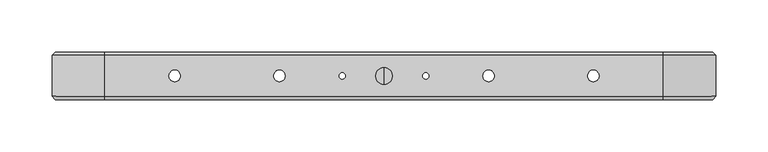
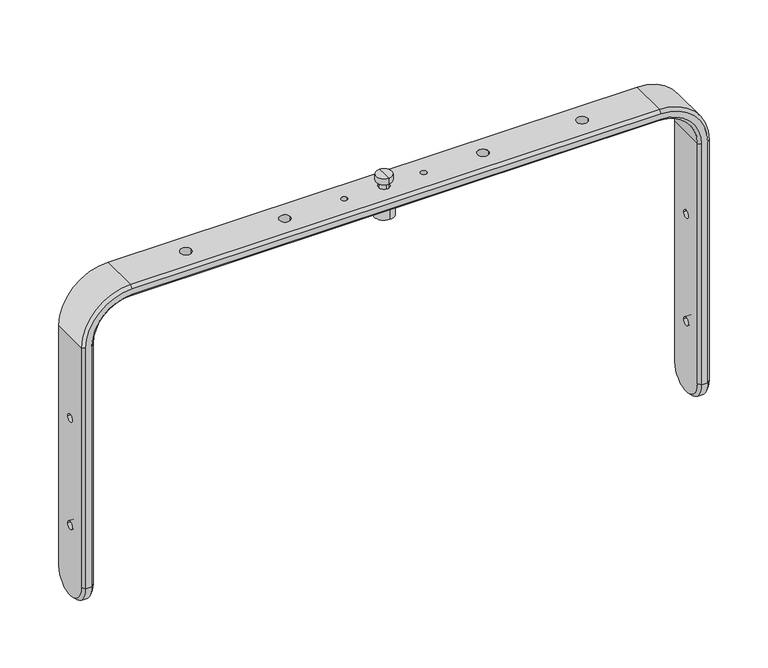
"""IFC4 building model written with IfcOpenShell, lengths in millimetres: proxy geometry, ePS12-WM380-HBRK600-WHM : ePS12-WM380-HBRK600-WHM."""

from ifc_helpers import new_model, si_unit, frame, origin, place, context, project, spatial, polyline, circle_curve, source, transform, mapped, element, save
from ifc_brep_helpers import plane_surface, cylinder_surface, revolved_surface, advanced_brep


def generic_models_f4ac07a8(model_context):
    return source(origin(), model_context, "Body", "AdvancedBrep", [
        advanced_brep(
        [(317.0, -359.9281655, -306.5012591), (317.0, -359.9281655, -50.0), (317.0, -399.0718345, -50.0), (317.0, -399.0718345, -306.5012591), (317.0, -375.5, -137.0012591), (317.0, -383.5, -137.0012591), (317.0, -375.5, -251.5012591), (317.0, -383.5, -251.5012591), (314.0, -402.0718345, -50.0), (314.0, -402.0718345, -306.5012591), (267.0, -402.0718345, -3.0), (-267.0, -402.0718345, -3.0), (-314.0, -402.0718345, -50.0), (-314.0, -402.0718345, -306.5012591), (-308.0, -402.0718345, -306.5012591), (-308.0, -402.0718345, -50.0), (-267.0, -402.0718345, -9.0), (267.0, -402.0718345, -9.0), (308.0, -402.0718345, -50.0), (308.0, -402.0718345, -306.5012591), (305.0, -399.0718345, -50.0), (305.0, -399.0718345, -306.5012591), (305.0, -359.9281655, -50.0), (305.0, -359.9281655, -306.5012591), (305.0, -383.5, -137.0012591), (305.0, -375.5, -137.0012591), (305.0, -383.5, -251.5012591), (305.0, -375.5, -251.5012591), (267.0, -359.9281655, 0.0), (267.0, -399.0718345, 0.0), (267.0, -399.0718345, -12.0), (267.0, -359.9281655, -12.0), (-267.0, -359.9281655, 0.0), (-267.0, -399.0718345, 0.0), (5.5, -379.5, 0.0), (-5.5, -379.5, 0.0), (-194.5, -379.5, 0.0), (-205.5, -379.5, 0.0), (-37.0, -379.5, 0.0), (-43.0, -379.5, 0.0), (-94.5, -379.5, 0.0), (-105.5, -379.5, 0.0), (194.5, -379.5, 0.0), (205.5, -379.5, 0.0), (37.0, -379.5, 0.0), (43.0, -379.5, 0.0), (94.5, -379.5, 0.0), (105.5, -379.5, 0.0), (-267.0, -399.0718345, -12.0), (-267.0, -359.9281655, -12.0), (-5.5, -379.5, -12.0), (5.5, -379.5, -12.0), (-205.5, -379.5, -12.0), (-194.5, -379.5, -12.0), (-43.0, -379.5, -12.0), (-37.0, -379.5, -12.0), (-105.5, -379.5, -12.0), (-94.5, -379.5, -12.0), (205.5, -379.5, -12.0), (194.5, -379.5, -12.0), (43.0, -379.5, -12.0), (37.0, -379.5, -12.0), (105.5, -379.5, -12.0), (94.5, -379.5, -12.0), (-317.0, -359.9281655, -50.0), (-317.0, -399.0718345, -50.0), (-305.0, -399.0718345, -50.0), (-305.0, -359.9281655, -50.0), (-317.0, -359.9281655, -306.5012591), (-317.0, -399.0718345, -306.5012591), (-317.0, -383.5, -137.0012591), (-317.0, -375.5, -137.0012591), (-317.0, -383.5, -251.5012591), (-317.0, -375.5, -251.5012591), (-305.0, -399.0718345, -306.5012591), (-305.0, -359.9281655, -306.5012591), (-305.0, -375.5, -137.0012591), (-305.0, -383.5, -137.0012591), (-305.0, -375.5, -251.5012591), (-305.0, -383.5, -251.5012591), (308.0, -356.9281655, -50.0), (308.0, -356.9281655, -306.5012591), (267.0, -356.9281655, -9.0), (-267.0, -356.9281655, -9.0), (-308.0, -356.9281655, -50.0), (-308.0, -356.9281655, -306.5012591), (-314.0, -356.9281655, -306.5012591), (-314.0, -356.9281655, -50.0), (-267.0, -356.9281655, -3.0), (267.0, -356.9281655, -3.0), (314.0, -356.9281655, -50.0), (314.0, -356.9281655, -306.5012591)],
        [
            (0, 1),
            (1, 2),
            (2, 3),
            (3, 0, circle_curve(frame((317.0, -379.5, -306.5012591), z_axis=(1.0, 0.0, 0.0), x_axis=(0.0, -1.0, 0.0)), 19.5718345)),
            (4, 5, circle_curve(frame((317.0, -379.5, -137.0012591), z_axis=(-1.0, 0.0, 0.0), x_axis=(0.0, 1.0, 0.0)), 4.0)),
            (5, 4, circle_curve(frame((317.0, -379.5, -137.0012591), z_axis=(-1.0, 0.0, 0.0), x_axis=(0.0, 1.0, 0.0)), 4.0)),
            (6, 7, circle_curve(frame((317.0, -379.5, -251.5012591), z_axis=(-1.0, 0.0, 0.0), x_axis=(0.0, 1.0, 0.0)), 4.0)),
            (7, 6, circle_curve(frame((317.0, -379.5, -251.5012591), z_axis=(-1.0, 0.0, 0.0), x_axis=(0.0, 1.0, 0.0)), 4.0)),
            (2, 8),
            (8, 9),
            (9, 3),
            (8, 10, circle_curve(frame((267.0, -402.0718345, -50.0), z_axis=(0.0, -1.0, 0.0), x_axis=(1.0, 0.0, 0.0)), 47.0)),
            (10, 11),
            (11, 12, circle_curve(frame((-267.0, -402.0718345, -50.0), z_axis=(0.0, -1.0, 0.0), x_axis=(0.0, 0.0, 1.0)), 47.0)),
            (12, 13),
            (13, 14),
            (14, 15),
            (15, 16, circle_curve(frame((-267.0, -402.0718345, -50.0), z_axis=(0.0, 1.0, 0.0), x_axis=(0.0, 0.0, 1.0)), 41.0)),
            (16, 17),
            (17, 18, circle_curve(frame((267.0, -402.0718345, -50.0), z_axis=(0.0, 1.0, 0.0), x_axis=(1.0, 0.0, 0.0)), 41.0)),
            (18, 19),
            (19, 9),
            (18, 20),
            (20, 21),
            (21, 19),
            (20, 22),
            (22, 23),
            (23, 21, circle_curve(frame((305.0, -379.5, -306.5012591), z_axis=(-1.0, 0.0, 0.0), x_axis=(0.0, -1.0, 0.0)), 19.5718345)),
            (24, 25, circle_curve(frame((305.0, -379.5, -137.0012591), z_axis=(1.0, 0.0, 0.0), x_axis=(0.0, 1.0, 0.0)), 4.0)),
            (25, 24, circle_curve(frame((305.0, -379.5, -137.0012591), z_axis=(1.0, 0.0, 0.0), x_axis=(0.0, 1.0, 0.0)), 4.0)),
            (26, 27, circle_curve(frame((305.0, -379.5, -251.5012591), z_axis=(1.0, 0.0, 0.0), x_axis=(0.0, 1.0, 0.0)), 4.0)),
            (27, 26, circle_curve(frame((305.0, -379.5, -251.5012591), z_axis=(1.0, 0.0, 0.0), x_axis=(0.0, 1.0, 0.0)), 4.0)),
            (1, 28, circle_curve(frame((267.0, -359.9281655, -50.0), z_axis=(0.0, -1.0, 0.0), x_axis=(1.0, 0.0, 0.0)), 50.0)),
            (28, 29),
            (29, 2, circle_curve(frame((267.0, -399.0718345, -50.0), z_axis=(0.0, 1.0, 0.0), x_axis=(1.0, 0.0, 0.0)), 50.0)),
            (29, 10),
            (17, 30),
            (30, 20, circle_curve(frame((267.0, -399.0718345, -50.0), z_axis=(0.0, 1.0, 0.0), x_axis=(1.0, 0.0, 0.0)), 38.0)),
            (30, 31),
            (31, 22, circle_curve(frame((267.0, -359.9281655, -50.0), z_axis=(0.0, 1.0, 0.0), x_axis=(1.0, 0.0, 0.0)), 38.0)),
            (28, 32),
            (32, 33),
            (33, 29),
            (34, 35, circle_curve(frame((0.0, -379.5, 0.0), z_axis=(0.0, 0.0, -1.0), x_axis=(1.0, 0.0, 0.0)), 5.5)),
            (35, 34, circle_curve(frame((0.0, -379.5, 0.0), z_axis=(0.0, 0.0, -1.0), x_axis=(1.0, 0.0, 0.0)), 5.5)),
            (36, 37, circle_curve(frame((-200.0, -379.5, 0.0), z_axis=(0.0, 0.0, -1.0), x_axis=(1.0, 0.0, 0.0)), 5.5)),
            (37, 36, circle_curve(frame((-200.0, -379.5, 0.0), z_axis=(0.0, 0.0, -1.0), x_axis=(1.0, 0.0, 0.0)), 5.5)),
            (38, 39, circle_curve(frame((-40.0, -379.5, 0.0), z_axis=(0.0, 0.0, -1.0), x_axis=(1.0, 0.0, 0.0)), 3.0)),
            (39, 38, circle_curve(frame((-40.0, -379.5, 0.0), z_axis=(0.0, 0.0, -1.0), x_axis=(1.0, 0.0, 0.0)), 3.0)),
            (40, 41, circle_curve(frame((-100.0, -379.5, 0.0), z_axis=(0.0, 0.0, -1.0), x_axis=(1.0, 0.0, 0.0)), 5.5)),
            (41, 40, circle_curve(frame((-100.0, -379.5, 0.0), z_axis=(0.0, 0.0, -1.0), x_axis=(1.0, 0.0, 0.0)), 5.5)),
            (42, 43, circle_curve(frame((200.0, -379.5, 0.0), z_axis=(0.0, 0.0, -1.0), x_axis=(-1.0, 0.0, 0.0)), 5.5)),
            (43, 42, circle_curve(frame((200.0, -379.5, 0.0), z_axis=(0.0, 0.0, -1.0), x_axis=(-1.0, 0.0, 0.0)), 5.5)),
            (44, 45, circle_curve(frame((40.0, -379.5, 0.0), z_axis=(0.0, 0.0, -1.0), x_axis=(-1.0, 0.0, 0.0)), 3.0)),
            (45, 44, circle_curve(frame((40.0, -379.5, 0.0), z_axis=(0.0, 0.0, -1.0), x_axis=(-1.0, 0.0, 0.0)), 3.0)),
            (46, 47, circle_curve(frame((100.0, -379.5, 0.0), z_axis=(0.0, 0.0, -1.0), x_axis=(-1.0, 0.0, 0.0)), 5.5)),
            (47, 46, circle_curve(frame((100.0, -379.5, 0.0), z_axis=(0.0, 0.0, -1.0), x_axis=(-1.0, 0.0, 0.0)), 5.5)),
            (33, 11),
            (16, 48),
            (48, 30),
            (48, 49),
            (49, 31),
            (50, 51, circle_curve(frame((0.0, -379.5, -12.0), z_axis=(0.0, 0.0, 1.0), x_axis=(1.0, 0.0, 0.0)), 5.5)),
            (51, 50, circle_curve(frame((0.0, -379.5, -12.0), z_axis=(0.0, 0.0, 1.0), x_axis=(1.0, 0.0, 0.0)), 5.5)),
            (52, 53, circle_curve(frame((-200.0, -379.5, -12.0), z_axis=(0.0, 0.0, 1.0), x_axis=(1.0, 0.0, 0.0)), 5.5)),
            (53, 52, circle_curve(frame((-200.0, -379.5, -12.0), z_axis=(0.0, 0.0, 1.0), x_axis=(1.0, 0.0, 0.0)), 5.5)),
            (54, 55, circle_curve(frame((-40.0, -379.5, -12.0), z_axis=(0.0, 0.0, 1.0), x_axis=(1.0, 0.0, 0.0)), 3.0)),
            (55, 54, circle_curve(frame((-40.0, -379.5, -12.0), z_axis=(0.0, 0.0, 1.0), x_axis=(1.0, 0.0, 0.0)), 3.0)),
            (56, 57, circle_curve(frame((-100.0, -379.5, -12.0), z_axis=(0.0, 0.0, 1.0), x_axis=(1.0, 0.0, 0.0)), 5.5)),
            (57, 56, circle_curve(frame((-100.0, -379.5, -12.0), z_axis=(0.0, 0.0, 1.0), x_axis=(1.0, 0.0, 0.0)), 5.5)),
            (58, 59, circle_curve(frame((200.0, -379.5, -12.0), z_axis=(0.0, 0.0, 1.0), x_axis=(-1.0, 0.0, 0.0)), 5.5)),
            (59, 58, circle_curve(frame((200.0, -379.5, -12.0), z_axis=(0.0, 0.0, 1.0), x_axis=(-1.0, 0.0, 0.0)), 5.5)),
            (60, 61, circle_curve(frame((40.0, -379.5, -12.0), z_axis=(0.0, 0.0, 1.0), x_axis=(-1.0, 0.0, 0.0)), 3.0)),
            (61, 60, circle_curve(frame((40.0, -379.5, -12.0), z_axis=(0.0, 0.0, 1.0), x_axis=(-1.0, 0.0, 0.0)), 3.0)),
            (62, 63, circle_curve(frame((100.0, -379.5, -12.0), z_axis=(0.0, 0.0, 1.0), x_axis=(-1.0, 0.0, 0.0)), 5.5)),
            (63, 62, circle_curve(frame((100.0, -379.5, -12.0), z_axis=(0.0, 0.0, 1.0), x_axis=(-1.0, 0.0, 0.0)), 5.5)),
            (32, 64, circle_curve(frame((-267.0, -359.9281655, -50.0), z_axis=(0.0, -1.0, 0.0), x_axis=(0.0, 0.0, 1.0)), 50.0)),
            (64, 65),
            (65, 33, circle_curve(frame((-267.0, -399.0718345, -50.0), z_axis=(0.0, 1.0, 0.0), x_axis=(0.0, 0.0, 1.0)), 50.0)),
            (65, 12),
            (15, 66),
            (66, 48, circle_curve(frame((-267.0, -399.0718345, -50.0), z_axis=(0.0, 1.0, 0.0), x_axis=(0.0, 0.0, 1.0)), 38.0)),
            (66, 67),
            (67, 49, circle_curve(frame((-267.0, -359.9281655, -50.0), z_axis=(0.0, 1.0, 0.0), x_axis=(0.0, 0.0, 1.0)), 38.0)),
            (64, 68),
            (68, 69, circle_curve(frame((-317.0, -379.5, -306.5012591), z_axis=(-1.0, 0.0, 0.0), x_axis=(0.0, -1.0, 0.0)), 19.5718345)),
            (69, 65),
            (70, 71, circle_curve(frame((-317.0, -379.5, -137.0012591), z_axis=(1.0, 0.0, 0.0), x_axis=(0.0, 1.0, 0.0)), 4.0)),
            (71, 70, circle_curve(frame((-317.0, -379.5, -137.0012591), z_axis=(1.0, 0.0, 0.0), x_axis=(0.0, 1.0, 0.0)), 4.0)),
            (72, 73, circle_curve(frame((-317.0, -379.5, -251.5012591), z_axis=(1.0, 0.0, 0.0), x_axis=(0.0, 1.0, 0.0)), 4.0)),
            (73, 72, circle_curve(frame((-317.0, -379.5, -251.5012591), z_axis=(1.0, 0.0, 0.0), x_axis=(0.0, 1.0, 0.0)), 4.0)),
            (69, 13),
            (14, 74),
            (74, 66),
            (74, 75, circle_curve(frame((-305.0, -379.5, -306.5012591), z_axis=(1.0, 0.0, 0.0), x_axis=(0.0, -1.0, 0.0)), 19.5718345)),
            (75, 67),
            (76, 77, circle_curve(frame((-305.0, -379.5, -137.0012591), z_axis=(-1.0, 0.0, 0.0), x_axis=(0.0, 1.0, 0.0)), 4.0)),
            (77, 76, circle_curve(frame((-305.0, -379.5, -137.0012591), z_axis=(-1.0, 0.0, 0.0), x_axis=(0.0, 1.0, 0.0)), 4.0)),
            (78, 79, circle_curve(frame((-305.0, -379.5, -251.5012591), z_axis=(-1.0, 0.0, 0.0), x_axis=(0.0, 1.0, 0.0)), 4.0)),
            (79, 78, circle_curve(frame((-305.0, -379.5, -251.5012591), z_axis=(-1.0, 0.0, 0.0), x_axis=(0.0, 1.0, 0.0)), 4.0)),
            (22, 80),
            (80, 81),
            (81, 23),
            (80, 82, circle_curve(frame((267.0, -356.9281655, -50.0), z_axis=(0.0, -1.0, 0.0), x_axis=(1.0, 0.0, 0.0)), 41.0)),
            (82, 83),
            (83, 84, circle_curve(frame((-267.0, -356.9281655, -50.0), z_axis=(0.0, -1.0, 0.0), x_axis=(0.0, 0.0, 1.0)), 41.0)),
            (84, 85),
            (85, 86),
            (86, 87),
            (87, 88, circle_curve(frame((-267.0, -356.9281655, -50.0), z_axis=(0.0, 1.0, 0.0), x_axis=(0.0, 0.0, 1.0)), 47.0)),
            (88, 89),
            (89, 90, circle_curve(frame((267.0, -356.9281655, -50.0), z_axis=(0.0, 1.0, 0.0), x_axis=(1.0, 0.0, 0.0)), 47.0)),
            (90, 91),
            (91, 81),
            (0, 91),
            (90, 1),
            (31, 82),
            (89, 28),
            (49, 83),
            (88, 32),
            (67, 84),
            (87, 64),
            (75, 85),
            (86, 68),
            (85, 14, circle_curve(frame((-308.0, -379.5, -306.5012591), z_axis=(-1.0, 0.0, 0.0), x_axis=(0.0, -1.0, 0.0)), 22.5718345)),
            (13, 86, circle_curve(frame((-314.0, -379.5, -306.5012591), z_axis=(1.0, 0.0, 0.0), x_axis=(0.0, -1.0, 0.0)), 22.5718345)),
            (91, 9, circle_curve(frame((314.0, -379.5, -306.5012591), z_axis=(-1.0, 0.0, 0.0), x_axis=(0.0, -1.0, 0.0)), 22.5718345)),
            (19, 81, circle_curve(frame((308.0, -379.5, -306.5012591), z_axis=(1.0, 0.0, 0.0), x_axis=(0.0, -1.0, 0.0)), 22.5718345)),
            (50, 35),
            (34, 51),
            (52, 37),
            (36, 53),
            (54, 39),
            (38, 55),
            (24, 5),
            (4, 25),
            (70, 77),
            (76, 71),
            (56, 41),
            (40, 57),
            (58, 43),
            (42, 59),
            (60, 45),
            (44, 61),
            (62, 47),
            (46, 63),
            (26, 7),
            (6, 27),
            (72, 79),
            (78, 73),
        ],
        [
            plane_surface(frame((317.0, -359.9281655, -306.5012591), z_axis=(1.0, 0.0, 0.0), x_axis=(0.0, 0.0, 1.0))),
            plane_surface(frame((317.0, -399.0718345, -306.5012591), z_axis=(0.7071067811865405, -0.7071067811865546, 0.0), x_axis=(0.0, 0.0, 1.0))),
            plane_surface(frame((314.0, -402.0718345, -306.5012591), z_axis=(0.0, -1.0, 0.0), x_axis=(0.0, 0.0, 1.0))),
            plane_surface(frame((308.0, -402.0718345, -306.5012591), z_axis=(-0.7071067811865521, -0.7071067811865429, 0.0), x_axis=(0.0, 0.0, 1.0))),
            plane_surface(frame((305.0, -399.0718345, -306.5012591), z_axis=(-1.0, 0.0, 0.0), x_axis=(0.0, 0.0, 1.0))),
            cylinder_surface(frame((267.0, -379.5, -50.0), z_axis=(0.0, -1.0, 0.0), x_axis=(1.0, 0.0, 0.0)), 50.0),
            revolved_surface(polyline([(317.0, -399.0718345, -50.0), (314.0, -402.0718345, -50.0)]), (267.0, -379.5, -50.0), (0.0, -1.0, 0.0)),
            revolved_surface(polyline([(308.0, -402.0718345, -50.0), (305.0, -399.0718345, -50.0)]), (267.0, -379.5, -50.0), (0.0, -1.0, 0.0)),
            revolved_surface(polyline([(305.0, -399.0718345, -50.0), (305.0, -359.9281655, -50.0)]), (267.0, -379.5, -50.0), (0.0, -1.0, 0.0)),
            plane_surface(frame((267.0, -359.9281655, 0.0), z_axis=(0.0, 0.0, 1.0), x_axis=(-1.0, 0.0, 0.0))),
            plane_surface(frame((267.0, -399.0718345, 0.0), z_axis=(0.0, -0.7071067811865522, 0.7071067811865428), x_axis=(-1.0, 0.0, 0.0))),
            plane_surface(frame((267.0, -402.0718345, -9.0), z_axis=(0.0, -0.7071067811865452, -0.7071067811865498), x_axis=(-1.0, 0.0, 0.0))),
            plane_surface(frame((267.0, -399.0718345, -12.0), z_axis=(0.0, 0.0, -1.0), x_axis=(-1.0, 0.0, 0.0))),
            cylinder_surface(frame((-267.0, -379.5, -50.0), z_axis=(0.0, -1.0, 0.0), x_axis=(0.0, 0.0, 1.0)), 50.0),
            revolved_surface(polyline([(-267.0, -399.0718345, 0.0), (-267.0, -402.0718345, -3.0)]), (-267.0, -379.5, -50.0), (0.0, -1.0, 0.0)),
            revolved_surface(polyline([(-267.0, -402.0718345, -9.0), (-267.0, -399.0718345, -12.0)]), (-267.0, -379.5, -50.0), (0.0, -1.0, 0.0)),
            revolved_surface(polyline([(-267.0, -399.0718345, -12.0), (-267.0, -359.9281655, -12.0)]), (-267.0, -379.5, -50.0), (0.0, -1.0, 0.0)),
            plane_surface(frame((-317.0, -359.9281655, -50.0), z_axis=(-1.0, 0.0, 0.0), x_axis=(0.0, 0.0, -1.0))),
            plane_surface(frame((-317.0, -399.0718345, -50.0), z_axis=(-0.7071067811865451, -0.7071067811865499, 0.0), x_axis=(0.0, 0.0, -1.0))),
            plane_surface(frame((-308.0, -402.0718345, -50.0), z_axis=(0.7071067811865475, -0.7071067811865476, 0.0), x_axis=(0.0, 0.0, -1.0))),
            plane_surface(frame((-305.0, -399.0718345, -50.0), z_axis=(1.0, 0.0, 0.0), x_axis=(0.0, 0.0, -1.0))),
            plane_surface(frame((305.0, -359.9281655, -306.5012591), z_axis=(-0.7071067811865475, 0.7071067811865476, 0.0), x_axis=(0.0, 0.0, 1.0))),
            plane_surface(frame((308.0, -356.9281655, -306.5012591), z_axis=(0.0, 1.0, 0.0), x_axis=(0.0, 0.0, 1.0))),
            plane_surface(frame((314.0, -356.9281655, -306.5012591), z_axis=(0.7071067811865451, 0.7071067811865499, 0.0), x_axis=(0.0, 0.0, 1.0))),
            revolved_surface(polyline([(305.0, -359.9281655, -50.0), (308.0, -356.9281655, -50.0)]), (267.0, -379.5, -50.0), (0.0, -1.0, 0.0)),
            revolved_surface(polyline([(314.0, -356.9281655, -50.0), (317.0, -359.9281655, -50.0)]), (267.0, -379.5, -50.0), (0.0, -1.0, 0.0)),
            plane_surface(frame((267.0, -359.9281655, -12.0), z_axis=(0.0, 0.7071067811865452, -0.7071067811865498), x_axis=(-1.0, 0.0, 0.0))),
            plane_surface(frame((267.0, -356.9281655, -3.0), z_axis=(0.0, 0.7071067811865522, 0.7071067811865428), x_axis=(-1.0, 0.0, 0.0))),
            revolved_surface(polyline([(-267.0, -359.9281655, -12.0), (-267.0, -356.9281655, -9.0)]), (-267.0, -379.5, -50.0), (0.0, -1.0, 0.0)),
            revolved_surface(polyline([(-267.0, -356.9281655, -3.0), (-267.0, -359.9281655, 0.0)]), (-267.0, -379.5, -50.0), (0.0, -1.0, 0.0)),
            plane_surface(frame((-305.0, -359.9281655, -50.0), z_axis=(0.7071067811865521, 0.7071067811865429, 0.0), x_axis=(0.0, 0.0, -1.0))),
            plane_surface(frame((-314.0, -356.9281655, -50.0), z_axis=(-0.7071067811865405, 0.7071067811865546, 0.0), x_axis=(0.0, 0.0, -1.0))),
            cylinder_surface(frame((1882.5, -379.5, -306.5012591), z_axis=(1.0, 0.0, 0.0), x_axis=(0.0, -1.0, 0.0)), 22.5718345),
            revolved_surface(polyline([(-308.0, -402.0718345, -306.5012591), (-305.0, -399.0718345, -306.5012591)]), (1882.5, -379.5, -306.5012591), (1.0, 0.0, 0.0)),
            revolved_surface(polyline([(-317.0, -399.0718345, -306.5012591), (-314.0, -402.0718345, -306.5012591)]), (1882.5, -379.5, -306.5012591), (1.0, 0.0, 0.0)),
            cylinder_surface(frame((-1882.5, -379.5, -306.5012591), z_axis=(1.0, 0.0, 0.0), x_axis=(0.0, -1.0, 0.0)), 22.5718345),
            revolved_surface(polyline([(305.0, -399.0718345, -306.5012591), (308.0, -402.0718345, -306.5012591)]), (-1882.5, -379.5, -306.5012591), (1.0, 0.0, 0.0)),
            revolved_surface(polyline([(314.0, -402.0718345, -306.5012591), (317.0, -399.0718345, -306.5012591)]), (-1882.5, -379.5, -306.5012591), (1.0, 0.0, 0.0)),
            revolved_surface(polyline([(5.5, -379.5, 0.0), (5.5, -379.5, -12.0)]), (0.0, -379.5, -20.0), (0.0, 0.0, 1.0)),
            revolved_surface(polyline([(-194.5, -379.5, 0.0), (-194.5, -379.5, -12.0)]), (-200.0, -379.5, 0.0), (0.0, 0.0, 1.0)),
            revolved_surface(polyline([(-37.0, -379.5, 0.0), (-37.0, -379.5, -12.0)]), (-40.0, -379.5, 0.0), (0.0, 0.0, 1.0)),
            revolved_surface(polyline([(317.0, -375.5, -137.0012591), (305.0, -375.5, -137.0012591)]), (-317.0, -379.5, -137.0012591), (1.0, 0.0, 0.0)),
            revolved_surface(polyline([(-305.0, -375.5, -137.0012591), (-317.0, -375.5, -137.0012591)]), (-317.0, -379.5, -137.0012591), (1.0, 0.0, 0.0)),
            revolved_surface(polyline([(-94.5, -379.5, 0.0), (-94.5, -379.5, -12.0)]), (-100.0, -379.5, 0.0), (0.0, 0.0, 1.0)),
            revolved_surface(polyline([(194.5, -379.5, 0.0), (194.5, -379.5, -12.0)]), (200.0, -379.5, 0.0), (0.0, 0.0, 1.0)),
            revolved_surface(polyline([(37.0, -379.5, 0.0), (37.0, -379.5, -12.0)]), (40.0, -379.5, 0.0), (0.0, 0.0, 1.0)),
            revolved_surface(polyline([(94.5, -379.5, 0.0), (94.5, -379.5, -12.0)]), (100.0, -379.5, 0.0), (0.0, 0.0, 1.0)),
            revolved_surface(polyline([(317.0, -375.5, -251.5012591), (305.0, -375.5, -251.5012591)]), (0.0, -379.5, -251.5012591), (1.0, 0.0, 0.0)),
            revolved_surface(polyline([(-305.0, -375.5, -251.5012591), (-317.0, -375.5, -251.5012591)]), (0.0, -379.5, -251.5012591), (1.0, 0.0, 0.0)),
        ],
        [
            (0, [[1, 2, 3, 4], [5, 6], [7, 8]]),
            (1, [[-3, 9, 10, 11]]),
            (2, [[-10, 12, 13, 14, 15, 16, 17, 18, 19, 20, 21, 22]]),
            (3, [[-21, 23, 24, 25]]),
            (4, [[-24, 26, 27, 28], [29, 30], [31, 32]]),
            (5, [[-2, 33, 34, 35]]),
            (6, [[-9, -35, 36, -12]]),
            (7, [[-20, 37, 38, -23]]),
            (8, [[-26, -38, 39, 40]]),
            (9, [[-34, 41, 42, 43], [44, 45], [46, 47], [48, 49], [50, 51], [52, 53], [54, 55], [56, 57]]),
            (10, [[-13, -36, -43, 58]]),
            (11, [[-19, 59, 60, -37]]),
            (12, [[-39, -60, 61, 62], [63, 64], [65, 66], [67, 68], [69, 70], [71, 72], [73, 74], [75, 76]]),
            (13, [[-42, 77, 78, 79]]),
            (14, [[-14, -58, -79, 80]]),
            (15, [[-18, 81, 82, -59]]),
            (16, [[-61, -82, 83, 84]]),
            (17, [[-78, 85, 86, 87], [88, 89], [90, 91]]),
            (18, [[-15, -80, -87, 92]]),
            (19, [[-17, 93, 94, -81]]),
            (20, [[-83, -94, 95, 96], [97, 98], [99, 100]]),
            (21, [[-27, 101, 102, 103]]),
            (22, [[-102, 104, 105, 106, 107, 108, 109, 110, 111, 112, 113, 114]]),
            (23, [[-1, 115, -113, 116]]),
            (24, [[-40, 117, -104, -101]]),
            (25, [[-33, -116, -112, 118]]),
            (26, [[-62, 119, -105, -117]]),
            (27, [[-41, -118, -111, 120]]),
            (28, [[-84, 121, -106, -119]]),
            (29, [[-77, -120, -110, 122]]),
            (30, [[-96, 123, -107, -121]]),
            (31, [[-85, -122, -109, 124]]),
            (32, [[125, -16, 126, -108]]),
            (33, [[-125, -123, -95, -93]]),
            (34, [[-126, -92, -86, -124]]),
            (35, [[127, -22, 128, -114]]),
            (36, [[-128, -25, -28, -103]]),
            (37, [[-127, -115, -4, -11]]),
            (38, [[129, -44, 130, -63]]),
            (38, [[-129, -64, -130, -45]]),
            (39, [[131, -46, 132, -65]]),
            (39, [[-131, -66, -132, -47]]),
            (40, [[133, -48, 134, -67]]),
            (40, [[-133, -68, -134, -49]]),
            (41, [[135, -5, 136, -29]]),
            (42, [[137, -97, 138, -88]]),
            (41, [[-135, -30, -136, -6]]),
            (42, [[-137, -89, -138, -98]]),
            (43, [[139, -50, 140, -69]]),
            (43, [[-139, -70, -140, -51]]),
            (44, [[141, -52, 142, -71]]),
            (44, [[-141, -72, -142, -53]]),
            (45, [[143, -54, 144, -73]]),
            (45, [[-143, -74, -144, -55]]),
            (46, [[145, -56, 146, -75]]),
            (46, [[-145, -76, -146, -57]]),
            (47, [[147, -7, 148, -31]]),
            (48, [[149, -99, 150, -90]]),
            (47, [[-147, -32, -148, -8]]),
            (48, [[-149, -91, -150, -100]]),
        ],
    ),
        advanced_brep(
        [(0.0, -371.5, 6.5732871), (0.0, -387.5, 6.5732871), (0.0, -387.5, 12.5197113), (0.0, -371.5, 12.5197113), (0.0, -375.5, 6.5732871), (0.0, -383.5, 6.5732871), (0.0, -375.5, -12.0), (0.0, -383.5, -12.0), (0.0, -379.5, 12.5197113)],
        [
            (0, 1, circle_curve(frame((0.0, -379.5, 6.5732871), z_axis=(0.0, 0.0, 1.0), x_axis=(0.0, -1.0, 0.0)), 8.0)),
            (1, 2),
            (2, 3, circle_curve(frame((0.0, -379.5, 12.5197113), z_axis=(0.0, 0.0, -1.0), x_axis=(0.0, -1.0, 0.0)), 8.0)),
            (3, 0),
            (1, 0, circle_curve(frame((0.0, -379.5, 6.5732871), z_axis=(0.0, 0.0, 1.0), x_axis=(0.0, -1.0, 0.0)), 8.0)),
            (3, 2, circle_curve(frame((0.0, -379.5, 12.5197113), z_axis=(0.0, 0.0, -1.0), x_axis=(0.0, -1.0, 0.0)), 8.0)),
            (0, 4),
            (4, 5, circle_curve(frame((0.0, -379.5, 6.5732871), z_axis=(0.0, 0.0, 1.0), x_axis=(0.0, -1.0, 0.0)), 4.0)),
            (5, 1),
            (5, 4, circle_curve(frame((0.0, -379.5, 6.5732871), z_axis=(0.0, 0.0, 1.0), x_axis=(0.0, -1.0, 0.0)), 4.0)),
            (4, 6),
            (6, 7, circle_curve(frame((0.0, -379.5, -12.0), z_axis=(0.0, 0.0, 1.0), x_axis=(0.0, -1.0, 0.0)), 4.0)),
            (7, 5),
            (7, 6, circle_curve(frame((0.0, -379.5, -12.0), z_axis=(0.0, 0.0, 1.0), x_axis=(0.0, -1.0, 0.0)), 4.0)),
            (2, 8),
            (8, 3),
        ],
        [
            cylinder_surface(frame((0.0, -379.5, 10.4453694), z_axis=(0.0, 0.0, -1.0), x_axis=(0.0, -1.0, 0.0)), 8.0),
            plane_surface(frame((0.0, -379.5, 6.5732871), z_axis=(0.0, 0.0, -1.0), x_axis=(0.0, -1.0, 0.0))),
            cylinder_surface(frame((0.0, -379.5, 10.4453694), z_axis=(0.0, 0.0, -1.0), x_axis=(0.0, -1.0, 0.0)), 4.0),
            plane_surface(frame((0.0, -379.5, 12.5197113), z_axis=(0.0, 0.0, 1.0), x_axis=(0.0, -1.0, 0.0))),
            plane_surface(frame((4.5, -379.5, -12.0), z_axis=(0.0, 0.0, -1.0), x_axis=(0.0, 1.0, 0.0))),
        ],
        [
            (0, [[1, 2, 3, 4]]),
            (0, [[-2, 5, -4, 6]]),
            (1, [[-1, 7, 8, 9]]),
            (1, [[-5, -9, 10, -7]]),
            (2, [[-8, 11, 12, 13]]),
            (2, [[-10, -13, 14, -11]]),
            (3, [[-3, 15, 16]]),
            (3, [[-6, -16, -15]]),
            (4, [[-12, -14]]),
        ],
    ),
        advanced_brep(
        [(0.0, -369.5, -16.0), (0.0, -389.5, -16.0), (0.0, -384.0, -16.0), (-4.5, -379.5, -16.0), (0.0, -375.0, -16.0), (4.5, -379.5, -16.0), (0.0, -369.5, -30.0), (0.0, -389.5, -30.0), (0.0, -379.5, -30.0), (-4.5, -379.5, -18.0), (4.5, -379.5, -18.0)],
        [
            (0, 1, circle_curve(frame((0.0, -379.5, -16.0), z_axis=(0.0, 0.0, 1.0), x_axis=(0.0, -1.0, 0.0)), 10.0)),
            (1, 2),
            (2, 3, circle_curve(frame((0.0, -379.5, -16.0), z_axis=(0.0, 0.0, -1.0), x_axis=(1.0, 0.0, 0.0)), 4.5)),
            (3, 4, circle_curve(frame((0.0, -379.5, -16.0), z_axis=(0.0, 0.0, -1.0), x_axis=(1.0, 0.0, 0.0)), 4.5)),
            (4, 0),
            (1, 0, circle_curve(frame((0.0, -379.5, -16.0), z_axis=(0.0, 0.0, 1.0), x_axis=(0.0, -1.0, 0.0)), 10.0)),
            (4, 5, circle_curve(frame((0.0, -379.5, -16.0), z_axis=(0.0, 0.0, -1.0), x_axis=(1.0, 0.0, 0.0)), 4.5)),
            (5, 2, circle_curve(frame((0.0, -379.5, -16.0), z_axis=(0.0, 0.0, -1.0), x_axis=(1.0, 0.0, 0.0)), 4.5)),
            (0, 6),
            (6, 7, circle_curve(frame((0.0, -379.5, -30.0), z_axis=(0.0, 0.0, 1.0), x_axis=(0.0, -1.0, 0.0)), 10.0)),
            (7, 1),
            (7, 6, circle_curve(frame((0.0, -379.5, -30.0), z_axis=(0.0, 0.0, 1.0), x_axis=(0.0, -1.0, 0.0)), 10.0)),
            (6, 8),
            (8, 7),
            (9, 10, circle_curve(frame((0.0, -379.5, -18.0), z_axis=(0.0, 0.0, 1.0), x_axis=(1.0, 0.0, 0.0)), 4.5)),
            (10, 9, circle_curve(frame((0.0, -379.5, -18.0), z_axis=(0.0, 0.0, 1.0), x_axis=(1.0, 0.0, 0.0)), 4.5)),
            (9, 3),
            (5, 10),
        ],
        [
            plane_surface(frame((0.0, -379.5, -16.0), z_axis=(0.0, 0.0, 1.0), x_axis=(0.0, -1.0, 0.0))),
            cylinder_surface(frame((0.0, -379.5, 10.4453694), z_axis=(0.0, 0.0, -1.0), x_axis=(0.0, -1.0, 0.0)), 10.0),
            plane_surface(frame((0.0, -379.5, -30.0), z_axis=(0.0, 0.0, -1.0), x_axis=(0.0, -1.0, 0.0))),
            plane_surface(frame((4.5, -379.5, -18.0), z_axis=(0.0, 0.0, 1.0), x_axis=(0.0, -1.0, 0.0))),
            revolved_surface(polyline([(4.5, -379.5, -16.0), (4.5, -379.5, -18.0)]), (0.0, -379.5, -18.0), (0.0, 0.0, 1.0)),
        ],
        [
            (0, [[1, 2, 3, 4, 5]]),
            (0, [[6, -5, 7, 8, -2]]),
            (1, [[-1, 9, 10, 11]]),
            (1, [[-6, -11, 12, -9]]),
            (2, [[-10, 13, 14]]),
            (2, [[-12, -14, -13]]),
            (3, [[15, 16]]),
            (4, [[-15, 17, -3, -8, 18]]),
            (4, [[-16, -18, -7, -4, -17]]),
        ],
    ),
    ])


if __name__ == "__main__":
    model = new_model("IFC4")
    model_context = context("Model", 3, world=origin())
    ifc_project = project(units=[si_unit("LENGTHUNIT", "METRE", prefix="MILLI")], contexts=[model_context])
    site = spatial("IfcSite", under=ifc_project)
    building = spatial("IfcBuilding", under=site)
    placement = place(None, origin())
    generic_models_shape = generic_models_f4ac07a8(model_context)
    element("IfcBuildingElementProxy", 1, Name="ePS12-WM380-HBRK600-WHM : ePS12-WM380-HBRK600-WHM", ObjectType="ePS12-WM380-HBRK600-WHM : ePS12-WM380-HBRK600-WHM", at=placement, inside=building, context=model_context, shape_type="MappedRepresentation", body=[
        mapped(generic_models_shape, transform((0.0, 0.0, 0.0), x_axis=(1.0, 0.0, 0.0), y_axis=(0.0, 1.0, 0.0), z_axis=(0.0, 0.0, 1.0))),
    ])
    save(model, "model.ifc")
